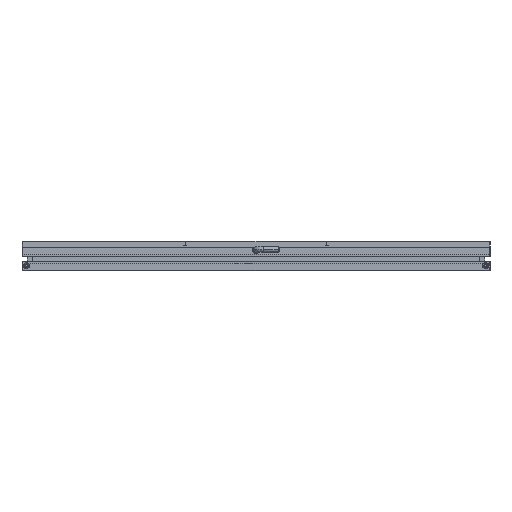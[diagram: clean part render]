
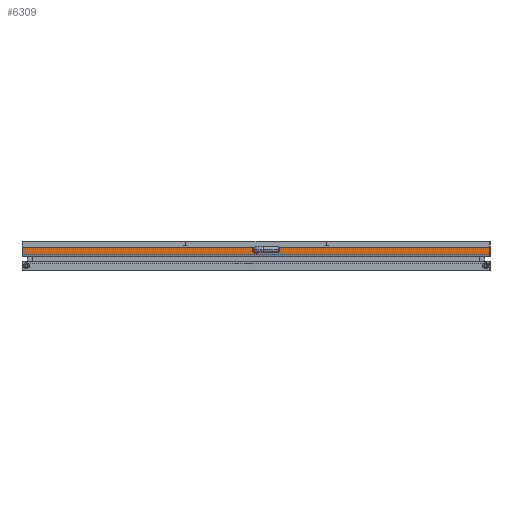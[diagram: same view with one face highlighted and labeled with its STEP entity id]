
A CAD part, left-side view. The second image highlights one B-rep face of the part: STEP entity #6309.
In plain terms, the highlighted planar face has unit normal (-1, 0, 0).
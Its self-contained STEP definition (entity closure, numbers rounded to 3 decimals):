
#6 = CARTESIAN_POINT ( 'NONE',  ( -157., 2.5, 0. ) ) ;
#233 = DIRECTION ( 'NONE',  ( 1., 0., 0. ) ) ;
#258 = VERTEX_POINT ( 'NONE', #6792 ) ;
#333 = VERTEX_POINT ( 'NONE', #6198 ) ;
#414 = CARTESIAN_POINT ( 'NONE',  ( -157., 156.5, -6.15 ) ) ;
#494 = DIRECTION ( 'NONE',  ( 0., -1., 0. ) ) ;
#526 = VERTEX_POINT ( 'NONE', #1211 ) ;
#628 = DIRECTION ( 'NONE',  ( 0., -1., 0. ) ) ;
#902 = DIRECTION ( 'NONE',  ( 0., 0., -1. ) ) ;
#925 = DIRECTION ( 'NONE',  ( 0., -1., 0. ) ) ;
#944 = EDGE_LOOP ( 'NONE', ( #6870, #2188, #2897, #1334, #4640, #3979, #7294, #3374 ) ) ;
#1130 = DIRECTION ( 'NONE',  ( 0., 0., -1. ) ) ;
#1190 = LINE ( 'NONE', #1434, #6716 ) ;
#1211 = CARTESIAN_POINT ( 'NONE',  ( -157., -2.5, -1.65 ) ) ;
#1334 = ORIENTED_EDGE ( 'NONE', *, *, #6443, .T. ) ;
#1434 = CARTESIAN_POINT ( 'NONE',  ( -157., 157., -6.15 ) ) ;
#1494 = VECTOR ( 'NONE', #6917, 1000. ) ;
#1533 = CARTESIAN_POINT ( 'NONE',  ( -157., -156.5, -6.15 ) ) ;
#1577 = LINE ( 'NONE', #2867, #6287 ) ;
#1632 = VERTEX_POINT ( 'NONE', #5801 ) ;
#1931 = EDGE_CURVE ( 'NONE', #333, #7509, #2238, .T. ) ;
#2015 = DIRECTION ( 'NONE',  ( 0., 0., 1. ) ) ;
#2046 = VECTOR ( 'NONE', #3232, 1000. ) ;
#2188 = ORIENTED_EDGE ( 'NONE', *, *, #2767, .T. ) ;
#2238 = LINE ( 'NONE', #2643, #2046 ) ;
#2313 = LINE ( 'NONE', #4570, #1494 ) ;
#2419 = EDGE_CURVE ( 'NONE', #1632, #2435, #4143, .T. ) ;
#2435 = VERTEX_POINT ( 'NONE', #6 ) ;
#2643 = CARTESIAN_POINT ( 'NONE',  ( -157., -156.5, 0. ) ) ;
#2767 = EDGE_CURVE ( 'NONE', #258, #2435, #2313, .T. ) ;
#2821 = EDGE_CURVE ( 'NONE', #5471, #333, #1577, .T. ) ;
#2867 = CARTESIAN_POINT ( 'NONE',  ( -157., 157., 0. ) ) ;
#2887 = AXIS2_PLACEMENT_3D ( 'NONE', #3455, #7491, #1130 ) ;
#2897 = ORIENTED_EDGE ( 'NONE', *, *, #2419, .F. ) ;
#2919 = LINE ( 'NONE', #4370, #4639 ) ;
#3156 = CARTESIAN_POINT ( 'NONE',  ( -157., -2.5, -6.15 ) ) ;
#3232 = DIRECTION ( 'NONE',  ( 0., 0., -1. ) ) ;
#3374 = ORIENTED_EDGE ( 'NONE', *, *, #3755, .T. ) ;
#3455 = CARTESIAN_POINT ( 'NONE',  ( -157., 0., -1.65 ) ) ;
#3755 = EDGE_CURVE ( 'NONE', #5471, #526, #6660, .T. ) ;
#3979 = ORIENTED_EDGE ( 'NONE', *, *, #1931, .F. ) ;
#4143 = LINE ( 'NONE', #5815, #4508 ) ;
#4370 = CARTESIAN_POINT ( 'NONE',  ( -157., 156.5, 0. ) ) ;
#4508 = VECTOR ( 'NONE', #628, 1000. ) ;
#4570 = CARTESIAN_POINT ( 'NONE',  ( -157., 2.5, -6.15 ) ) ;
#4639 = VECTOR ( 'NONE', #902, 1000. ) ;
#4640 = ORIENTED_EDGE ( 'NONE', *, *, #6292, .T. ) ;
#4943 = CIRCLE ( 'NONE', #2887, 2.5 ) ;
#5301 = VECTOR ( 'NONE', #6030, 1000. ) ;
#5471 = VERTEX_POINT ( 'NONE', #7072 ) ;
#5541 = CARTESIAN_POINT ( 'NONE',  ( -157., 157., -6.15 ) ) ;
#5801 = CARTESIAN_POINT ( 'NONE',  ( -157., 156.5, 0. ) ) ;
#5815 = CARTESIAN_POINT ( 'NONE',  ( -157., 157., 0. ) ) ;
#5895 = VERTEX_POINT ( 'NONE', #414 ) ;
#6030 = DIRECTION ( 'NONE',  ( 0., 0., -1. ) ) ;
#6068 = PLANE ( 'NONE',  #7194 ) ;
#6166 = FACE_OUTER_BOUND ( 'NONE', #944, .T. ) ;
#6198 = CARTESIAN_POINT ( 'NONE',  ( -157., -156.5, 0. ) ) ;
#6287 = VECTOR ( 'NONE', #494, 1000. ) ;
#6292 = EDGE_CURVE ( 'NONE', #5895, #7509, #1190, .T. ) ;
#6309 = ADVANCED_FACE ( 'NONE', ( #6166 ), #6068, .F. ) ;
#6443 = EDGE_CURVE ( 'NONE', #1632, #5895, #2919, .T. ) ;
#6660 = LINE ( 'NONE', #3156, #5301 ) ;
#6716 = VECTOR ( 'NONE', #925, 1000. ) ;
#6792 = CARTESIAN_POINT ( 'NONE',  ( -157., 2.5, -1.65 ) ) ;
#6870 = ORIENTED_EDGE ( 'NONE', *, *, #7190, .T. ) ;
#6917 = DIRECTION ( 'NONE',  ( 0., 0., 1. ) ) ;
#7072 = CARTESIAN_POINT ( 'NONE',  ( -157., -2.5, 0. ) ) ;
#7190 = EDGE_CURVE ( 'NONE', #526, #258, #4943, .T. ) ;
#7194 = AXIS2_PLACEMENT_3D ( 'NONE', #5541, #233, #2015 ) ;
#7294 = ORIENTED_EDGE ( 'NONE', *, *, #2821, .F. ) ;
#7491 = DIRECTION ( 'NONE',  ( 1., 0., 0. ) ) ;
#7509 = VERTEX_POINT ( 'NONE', #1533 ) ;
